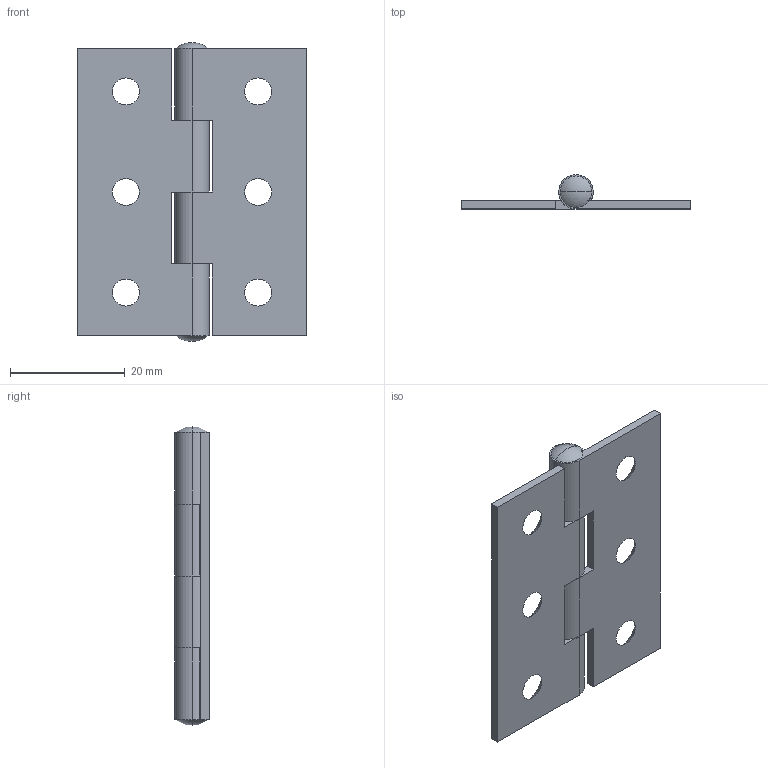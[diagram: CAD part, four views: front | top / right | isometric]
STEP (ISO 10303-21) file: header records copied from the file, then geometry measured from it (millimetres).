
FILE_DESCRIPTION (( 'STEP AP214' ), '1' );
FILE_NAME ('3.ST48.002.STEP', '2010-02-18T17:24:46', ( '£ukaszC' ), ( '' ), 'SwSTEP 2.0', 'SolidWorks 2008', '' );
FILE_SCHEMA (( 'AUTOMOTIVE_DESIGN' ));
Length unit declared in the file: millimetre
Products named in the file (3): 3.ST48.002.01; 3.ST48.002; ST48 sworzeñ
Assembly tree (3 placements, depth 2):
  3.ST48.002
    3.ST48.002.01  x2
    ST48 sworzeñ
Bounding box: 40 x 6 x 52 mm (x, y, z)
Volume: 3710.7 mm3; surface area: 5815.8 mm2
Topology: 3 solids, 3 shells, 76 faces, 194 edges, 122 vertices
Faces by surface type: plane 34, cylinder 26, cone 12, torus 4
Entity records: 1354 total; most frequent: DIRECTION 246, CARTESIAN_POINT 216, ORIENTED_EDGE 204, EDGE_CURVE 102, AXIS2_PLACEMENT_3D 96, VERTEX_POINT 66, LINE 54, VECTOR 54
